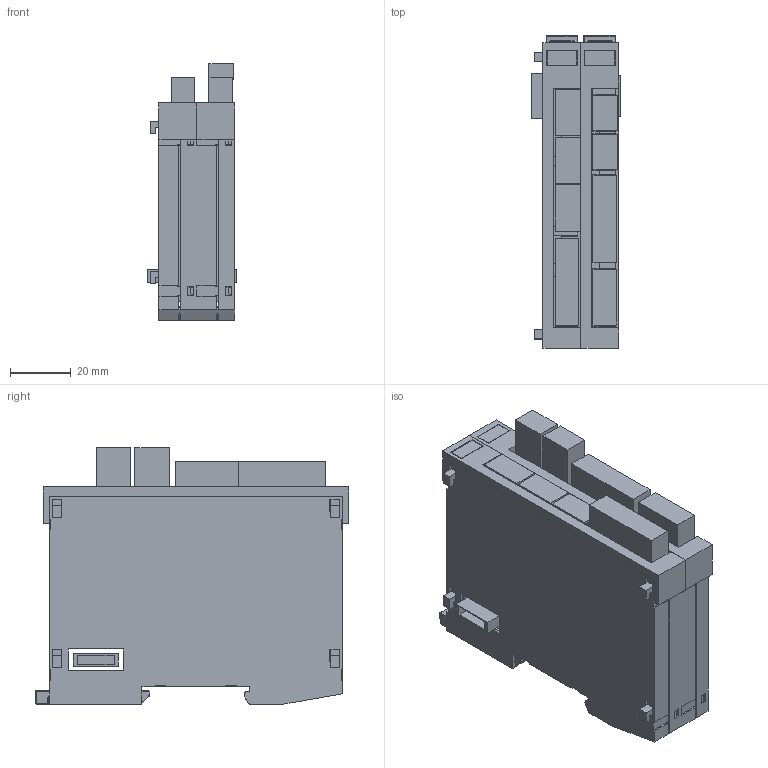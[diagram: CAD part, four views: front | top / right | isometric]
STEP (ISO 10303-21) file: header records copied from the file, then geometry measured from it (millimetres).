
FILE_DESCRIPTION (( 'STEP AP214' ), '1' );
FILE_NAME ('DC104 (20-014-104) Export20250321.STEP', '2025-03-21T07:23:03', ( '' ), ( '' ), 'SwSTEP 2.0', 'SolidWorks 2020', '' );
FILE_SCHEMA (( 'AUTOMOTIVE_DESIGN' ));
Length unit declared in the file: millimetre
Products named in the file (16): S-Dias Schale links_f Suport; Schieber_f Suport; Dummy_4110262193 BFC 3_81 Stecker; Dummy_4080225346 Erni Stift; Dummy_4110262152 5pol Buchse; DC104 (20-014-104)  Export20250321; Dummy_4080225345 Erni Buchse; Dummy_SC-SMT_3_81_3_90G1_5SN_SW_1862970000; S-Dias Schale rechts_f Suport; LP_DC104; Dummy_4110262173 5pol Stecker 1.5-6-st-3.5_1705390; Dummy_______________8pol Buchse; Dummy_4110260022 8pol.Federkraftstecker 1reih. 1952322; S-Dias Zwischenstück Doppelmodul; Steckerabdeckung_Var 9_Support; ZM1505-2730-10 Rasthaken S-Dias
Assembly tree (23 placements, depth 3):
  DC104 (20-014-104)  Export20250321
    S-Dias Schale links_f Suport
    S-Dias Schale rechts_f Suport
    ZM1505-2730-10 Rasthaken S-Dias  x2
    S-Dias Zwischenstück Doppelmodul
    LP_DC104
      Dummy_4110262152 5pol Buchse
      Dummy_SC-SMT_3_81_3_90G1_5SN_SW_1862970000  x2
      Dummy_4080225345 Erni Buchse
      Dummy_4110262173 5pol Stecker 1.5-6-st-3.5_1705390
      Dummy_4110262193 BFC 3_81 Stecker  x2
      Dummy_4080225346 Erni Stift
      Dummy_______________8pol Buchse  x2
      Dummy_4110260022 8pol.Federkraftstecker 1reih. 1952322  x2
    Schieber_f Suport  x2
    Steckerabdeckung_Var 9_Support  x3
Bounding box: 29.3 x 103.29 x 84.72 mm (x, y, z)
Volume: 49735.5 mm3; surface area: 62102.3 mm2
Topology: 24 solids, 24 shells, 1355 faces, 3939 edges, 2616 vertices
Faces by surface type: plane 947, cylinder 222, bspline 140, cone 34, torus 12
Entity records: 34513 total; most frequent: CARTESIAN_POINT 8539, ORIENTED_EDGE 5682, DIRECTION 4514, EDGE_CURVE 2841, VECTOR 2214, LINE 2214, VERTEX_POINT 1883, AXIS2_PLACEMENT_3D 1150
